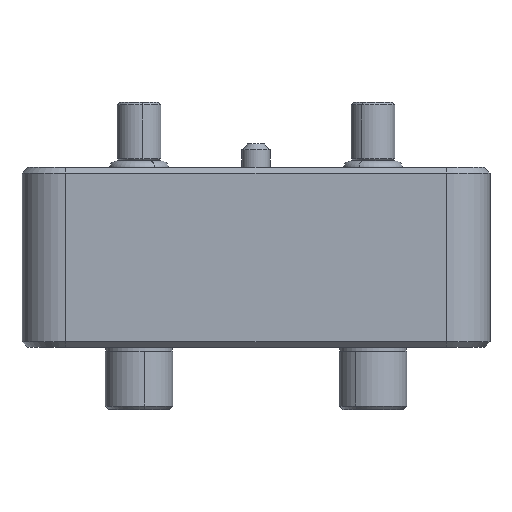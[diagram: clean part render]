
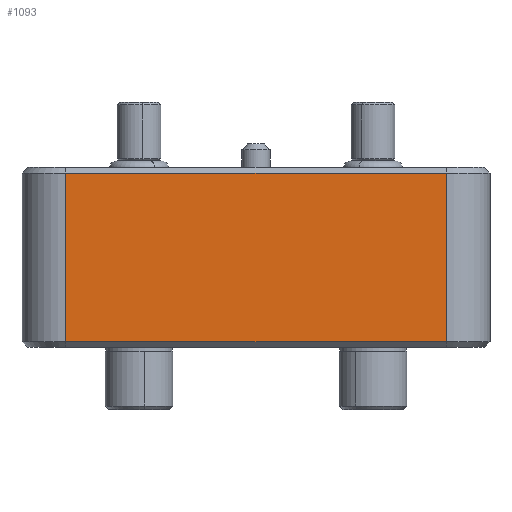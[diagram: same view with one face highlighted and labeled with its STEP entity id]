
A CAD part, front view. The second image highlights one B-rep face of the part: STEP entity #1093.
In plain terms, the highlighted planar face has unit normal (0, -1, 0).
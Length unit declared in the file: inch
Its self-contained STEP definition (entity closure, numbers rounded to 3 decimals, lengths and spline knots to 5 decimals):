
#73 = AXIS2_PLACEMENT_3D ( 'NONE', #411, #2362, #2615 ) ;
#80 = VECTOR ( 'NONE', #1739, 39.37008 ) ;
#152 = ORIENTED_EDGE ( 'NONE', *, *, #546, .T. ) ;
#379 = LINE ( 'NONE', #3186, #1189 ) ;
#411 = CARTESIAN_POINT ( 'NONE',  ( 2., -3., 1.54 ) ) ;
#430 = ORIENTED_EDGE ( 'NONE', *, *, #1738, .T. ) ;
#461 = VECTOR ( 'NONE', #1362, 39.37008 ) ;
#546 = EDGE_CURVE ( 'NONE', #1383, #1377, #379, .T. ) ;
#597 = DIRECTION ( 'NONE',  ( 0., 0., -1. ) ) ;
#599 = LINE ( 'NONE', #2347, #461 ) ;
#671 = FACE_OUTER_BOUND ( 'NONE', #3058, .T. ) ;
#686 = PLANE ( 'NONE',  #73 ) ;
#832 = CARTESIAN_POINT ( 'NONE',  ( -1.625, -3., 0.05 ) ) ;
#852 = CARTESIAN_POINT ( 'NONE',  ( 1.625, -3., 0.05 ) ) ;
#901 = EDGE_CURVE ( 'NONE', #2398, #2444, #1580, .T. ) ;
#1093 = ADVANCED_FACE ( 'NONE', ( #671 ), #686, .F. ) ;
#1098 = CARTESIAN_POINT ( 'NONE',  ( -1.625, -3., 1.49 ) ) ;
#1189 = VECTOR ( 'NONE', #1878, 39.37008 ) ;
#1294 = VECTOR ( 'NONE', #597, 39.37008 ) ;
#1362 = DIRECTION ( 'NONE',  ( 1., 0., 0. ) ) ;
#1377 = VERTEX_POINT ( 'NONE', #2829 ) ;
#1383 = VERTEX_POINT ( 'NONE', #852 ) ;
#1580 = LINE ( 'NONE', #2321, #1294 ) ;
#1596 = ORIENTED_EDGE ( 'NONE', *, *, #901, .T. ) ;
#1738 = EDGE_CURVE ( 'NONE', #1377, #2398, #2811, .T. ) ;
#1739 = DIRECTION ( 'NONE',  ( -1., 0., 0. ) ) ;
#1878 = DIRECTION ( 'NONE',  ( 0., 0., 1. ) ) ;
#2167 = ORIENTED_EDGE ( 'NONE', *, *, #2415, .T. ) ;
#2239 = CARTESIAN_POINT ( 'NONE',  ( -1.625, -3., 1.49 ) ) ;
#2321 = CARTESIAN_POINT ( 'NONE',  ( -1.625, -3., 1.54 ) ) ;
#2347 = CARTESIAN_POINT ( 'NONE',  ( 2., -3., 0.05 ) ) ;
#2362 = DIRECTION ( 'NONE',  ( 0., 1., 0. ) ) ;
#2398 = VERTEX_POINT ( 'NONE', #1098 ) ;
#2415 = EDGE_CURVE ( 'NONE', #2444, #1383, #599, .T. ) ;
#2444 = VERTEX_POINT ( 'NONE', #832 ) ;
#2615 = DIRECTION ( 'NONE',  ( 0., 0., 1. ) ) ;
#2811 = LINE ( 'NONE', #2239, #80 ) ;
#2829 = CARTESIAN_POINT ( 'NONE',  ( 1.625, -3., 1.49 ) ) ;
#3058 = EDGE_LOOP ( 'NONE', ( #1596, #2167, #152, #430 ) ) ;
#3186 = CARTESIAN_POINT ( 'NONE',  ( 1.625, -3., 1.54 ) ) ;
